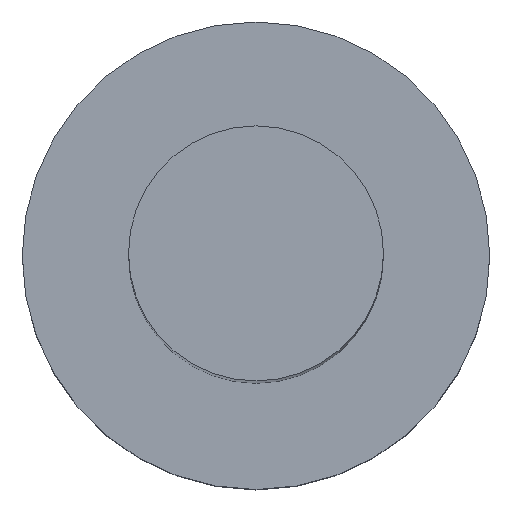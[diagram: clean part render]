
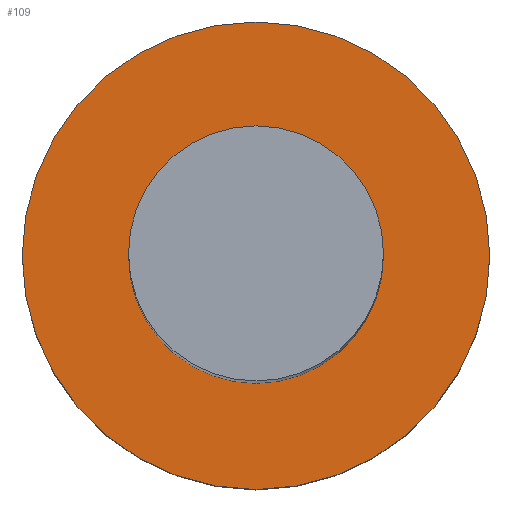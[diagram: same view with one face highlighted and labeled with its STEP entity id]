
A CAD part, top view. The second image highlights one B-rep face of the part: STEP entity #109.
In plain terms, the highlighted planar face has unit normal (0, 0, 1).
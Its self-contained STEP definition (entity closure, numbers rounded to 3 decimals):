
#24 = VERTEX_POINT('',#25);
#25 = CARTESIAN_POINT('',(44.25,8.363,3.));
#32 = CYLINDRICAL_SURFACE('',#33,2.75);
#33 = AXIS2_PLACEMENT_3D('',#34,#35,#36);
#34 = CARTESIAN_POINT('',(41.5,8.363,0.));
#35 = DIRECTION('',(-0.,-0.,-1.));
#36 = DIRECTION('',(1.,0.,0.));
#51 = EDGE_CURVE('',#24,#24,#52,.T.);
#52 = SURFACE_CURVE('',#53,(#58,#65),.PCURVE_S1.);
#53 = CIRCLE('',#54,2.75);
#54 = AXIS2_PLACEMENT_3D('',#55,#56,#57);
#55 = CARTESIAN_POINT('',(41.5,8.363,3.));
#56 = DIRECTION('',(0.,0.,1.));
#57 = DIRECTION('',(1.,0.,0.));
#58 = PCURVE('',#32,#59);
#59 = DEFINITIONAL_REPRESENTATION('',(#60),#64);
#60 = LINE('',#61,#62);
#61 = CARTESIAN_POINT('',(-0.,-3.));
#62 = VECTOR('',#63,1.);
#63 = DIRECTION('',(-1.,0.));
#64 = ( GEOMETRIC_REPRESENTATION_CONTEXT(2) 
PARAMETRIC_REPRESENTATION_CONTEXT() REPRESENTATION_CONTEXT('2D SPACE',''
  ) );
#65 = PCURVE('',#66,#71);
#66 = PLANE('',#67);
#67 = AXIS2_PLACEMENT_3D('',#68,#69,#70);
#68 = CARTESIAN_POINT('',(41.5,8.363,3.));
#69 = DIRECTION('',(0.,0.,1.));
#70 = DIRECTION('',(1.,0.,0.));
#71 = DEFINITIONAL_REPRESENTATION('',(#72),#76);
#72 = CIRCLE('',#73,2.75);
#73 = AXIS2_PLACEMENT_2D('',#74,#75);
#74 = CARTESIAN_POINT('',(0.,0.));
#75 = DIRECTION('',(1.,0.));
#76 = ( GEOMETRIC_REPRESENTATION_CONTEXT(2) 
PARAMETRIC_REPRESENTATION_CONTEXT() REPRESENTATION_CONTEXT('2D SPACE',''
  ) );
#109 = ADVANCED_FACE('',(#110,#113),#66,.T.);
#110 = FACE_BOUND('',#111,.T.);
#111 = EDGE_LOOP('',(#112));
#112 = ORIENTED_EDGE('',*,*,#51,.T.);
#113 = FACE_BOUND('',#114,.T.);
#114 = EDGE_LOOP('',(#115));
#115 = ORIENTED_EDGE('',*,*,#116,.F.);
#116 = EDGE_CURVE('',#117,#117,#119,.T.);
#117 = VERTEX_POINT('',#118);
#118 = CARTESIAN_POINT('',(43.,8.363,3.));
#119 = SURFACE_CURVE('',#120,(#125,#132),.PCURVE_S1.);
#120 = CIRCLE('',#121,1.5);
#121 = AXIS2_PLACEMENT_3D('',#122,#123,#124);
#122 = CARTESIAN_POINT('',(41.5,8.363,3.));
#123 = DIRECTION('',(0.,0.,1.));
#124 = DIRECTION('',(1.,0.,0.));
#125 = PCURVE('',#66,#126);
#126 = DEFINITIONAL_REPRESENTATION('',(#127),#131);
#127 = CIRCLE('',#128,1.5);
#128 = AXIS2_PLACEMENT_2D('',#129,#130);
#129 = CARTESIAN_POINT('',(0.,0.));
#130 = DIRECTION('',(1.,0.));
#131 = ( GEOMETRIC_REPRESENTATION_CONTEXT(2) 
PARAMETRIC_REPRESENTATION_CONTEXT() REPRESENTATION_CONTEXT('2D SPACE',''
  ) );
#132 = PCURVE('',#133,#138);
#133 = CYLINDRICAL_SURFACE('',#134,1.5);
#134 = AXIS2_PLACEMENT_3D('',#135,#136,#137);
#135 = CARTESIAN_POINT('',(41.5,8.363,3.));
#136 = DIRECTION('',(-0.,-0.,-1.));
#137 = DIRECTION('',(1.,0.,0.));
#138 = DEFINITIONAL_REPRESENTATION('',(#139),#143);
#139 = LINE('',#140,#141);
#140 = CARTESIAN_POINT('',(-0.,0.));
#141 = VECTOR('',#142,1.);
#142 = DIRECTION('',(-1.,0.));
#143 = ( GEOMETRIC_REPRESENTATION_CONTEXT(2) 
PARAMETRIC_REPRESENTATION_CONTEXT() REPRESENTATION_CONTEXT('2D SPACE',''
  ) );
